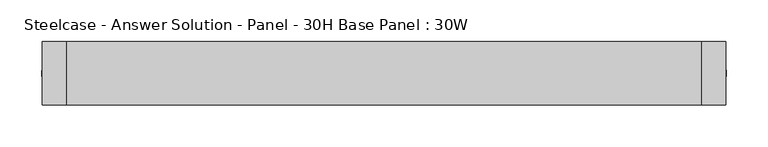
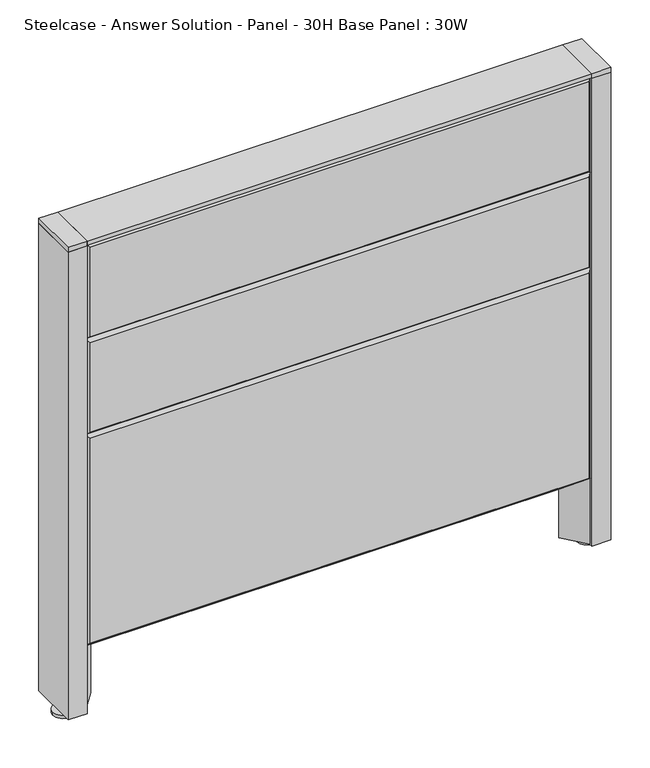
"""IFC4 building model written with IfcOpenShell, lengths in millimetres: furniture geometry, Steelcase - Answer Solution - Panel - 30H Base Panel : 30W."""

from ifc_helpers import new_model, si_unit, point, frame, frame_2d, origin, place, context, project, spatial, polyline, circle_curve, trimmed, segment, composite_curve, outline, extrude, faceted_brep, source, transform, mapped, element, save


def steelcase_answer_solution_panel_30h_base_panel_30w_2457fe21(model_context):
    return source(origin(), model_context, "Body", "SolidModel", [
        extrude(outline(composite_curve([segment(trimmed(circle_curve(frame_2d((395.224, 0.0320214)), 5.08), [point((400.304, 0.0320214))], [point((390.144, 0.0320214))], False, "CARTESIAN"), True, "CONTINUOUS"), segment(trimmed(circle_curve(frame_2d((395.224, 0.0320214)), 5.08), [point((390.144, 0.0320214))], [point((400.304, 0.0320214))], False, "CARTESIAN"), True, "CONTINUOUS")], self_intersect=False)), frame((0.0, 0.0, 5.0799671), z_axis=(0.0, 0.0, 1.0), x_axis=(1.0, 0.0, 0.0)), (0.0, 0.0, 1.0), 10.414),
        extrude(outline(composite_curve([segment(trimmed(circle_curve(frame_2d((395.224, 0.0320214)), 15.24), [point((410.464, 0.0320214))], [point((379.984, 0.0320214))], False, "CARTESIAN"), True, "CONTINUOUS"), segment(trimmed(circle_curve(frame_2d((395.224, 0.0320214)), 15.24), [point((379.984, 0.0320214))], [point((410.464, 0.0320214))], False, "CARTESIAN"), True, "CONTINUOUS")], self_intersect=False)), frame((0.0, 0.0, -3.29e-05), z_axis=(0.0, 0.0, 1.0), x_axis=(1.0, 0.0, 0.0)), (0.0, 0.0, 1.0), 5.08),
        extrude(outline(polyline([(409.575, 38.1320408), (409.575, -38.0679592), (381.0, -38.0679592), (381.0, 38.1320408), (409.575, 38.1320408)])), frame((0.0, 0.0, 761.0348), z_axis=(0.0, 0.0, 1.0), x_axis=(1.0, 0.0, 0.0)), (0.0, 0.0, 1.0), 7.3151671),
        extrude(outline(polyline([(409.575, 38.1320408), (409.575, -38.0679592), (381.0, -38.0679592), (381.0, 38.1320408), (409.575, 38.1320408)])), frame((0.0, 0.0, 15.4939671), z_axis=(0.0, 0.0, 1.0), x_axis=(1.0, 0.0, 0.0)), (0.0, 0.0, 1.0), 745.5408329),
        extrude(outline(composite_curve([segment(trimmed(circle_curve(frame_2d((-395.224, -0.0320214)), 5.08), [point((-400.304, -0.0320214))], [point((-390.144, -0.0320214))], False, "CARTESIAN"), True, "CONTINUOUS"), segment(trimmed(circle_curve(frame_2d((-395.224, -0.0320214)), 5.08), [point((-390.144, -0.0320214))], [point((-400.304, -0.0320214))], False, "CARTESIAN"), True, "CONTINUOUS")], self_intersect=False)), frame((0.0, 0.0, 5.0799671), z_axis=(0.0, 0.0, 1.0), x_axis=(1.0, 0.0, 0.0)), (0.0, 0.0, 1.0), 10.414),
        extrude(outline(composite_curve([segment(trimmed(circle_curve(frame_2d((-395.224, -0.0320214)), 15.24), [point((-410.464, -0.0320214))], [point((-379.984, -0.0320214))], False, "CARTESIAN"), True, "CONTINUOUS"), segment(trimmed(circle_curve(frame_2d((-395.224, -0.0320214)), 15.24), [point((-379.984, -0.0320214))], [point((-410.464, -0.0320214))], False, "CARTESIAN"), True, "CONTINUOUS")], self_intersect=False)), frame((0.0, 0.0, -3.29e-05), z_axis=(0.0, 0.0, 1.0), x_axis=(1.0, 0.0, 0.0)), (0.0, 0.0, 1.0), 5.08),
        extrude(outline(polyline([(-409.575, -38.1320408), (-409.575, 38.0679592), (-381.0, 38.0679592), (-381.0, -38.1320408), (-409.575, -38.1320408)])), frame((0.0, 0.0, 761.0348), z_axis=(0.0, 0.0, 1.0), x_axis=(1.0, 0.0, 0.0)), (0.0, 0.0, 1.0), 7.3151671),
        extrude(outline(polyline([(-409.575, -38.1320408), (-409.575, 38.0679592), (-381.0, 38.0679592), (-381.0, -38.1320408), (-409.575, -38.1320408)])), frame((0.0, 0.0, 15.4939671), z_axis=(0.0, 0.0, 1.0), x_axis=(1.0, 0.0, 0.0)), (0.0, 0.0, 1.0), 745.5408329),
        faceted_brep([(376.174, 38.1635011, 757.174), (376.174, 38.1635011, 614.426), (-376.174, 38.1635011, 614.426), (-376.174, 38.1635011, 757.174), (381.0, 33.3375011, 762.0), (-381.0, 33.3375011, 762.0), (-381.0, 33.3375011, 609.6), (381.0, 33.3375011, 609.6)], [[[0, 1, 2, 3]], [[4, 5, 6, 7]], [[4, 0, 3, 5]], [[5, 3, 2, 6]], [[6, 2, 1, 7]], [[7, 1, 0, 4]]]),
        faceted_brep([(376.174, 38.1635011, 604.774), (376.174, 38.1635011, 462.026), (-376.174, 38.1635011, 462.026), (-376.174, 38.1635011, 604.774), (381.0, 33.3375011, 609.6), (-381.0, 33.3375011, 609.6), (-381.0, 33.3375011, 457.2), (381.0, 33.3375011, 457.2)], [[[0, 1, 2, 3]], [[4, 5, 6, 7]], [[4, 0, 3, 5]], [[5, 3, 2, 6]], [[6, 2, 1, 7]], [[7, 1, 0, 4]]]),
        faceted_brep([(376.174, 38.1635011, 452.374), (376.174, 38.1635011, 125.476), (-376.174, 38.1635011, 125.476), (-376.174, 38.1635011, 452.374), (381.0, 33.3375011, 457.2), (-381.0, 33.3375011, 457.2), (-381.0, 33.3375011, 120.65), (381.0, 33.3375011, 120.65)], [[[0, 1, 2, 3]], [[4, 5, 6, 7]], [[4, 0, 3, 5]], [[5, 3, 2, 6]], [[6, 2, 1, 7]], [[7, 1, 0, 4]]]),
        faceted_brep([(376.174, -38.1635011, 757.174), (-376.174, -38.1635011, 757.174), (-376.174, -38.1635011, 614.426), (376.174, -38.1635011, 614.426), (381.0, -33.3375011, 762.0), (381.0, -33.3375011, 609.6), (-381.0, -33.3375011, 609.6), (-381.0, -33.3375011, 762.0)], [[[0, 1, 2, 3]], [[4, 5, 6, 7]], [[4, 7, 1, 0]], [[7, 6, 2, 1]], [[6, 5, 3, 2]], [[5, 4, 0, 3]]]),
        faceted_brep([(376.174, -38.1635011, 604.774), (-376.174, -38.1635011, 604.774), (-376.174, -38.1635011, 462.026), (376.174, -38.1635011, 462.026), (381.0, -33.3375011, 609.6), (381.0, -33.3375011, 457.2), (-381.0, -33.3375011, 457.2), (-381.0, -33.3375011, 609.6)], [[[0, 1, 2, 3]], [[4, 5, 6, 7]], [[4, 7, 1, 0]], [[7, 6, 2, 1]], [[6, 5, 3, 2]], [[5, 4, 0, 3]]]),
        faceted_brep([(376.174, -38.1635011, 452.374), (-376.174, -38.1635011, 452.374), (-376.174, -38.1635011, 125.476), (376.174, -38.1635011, 125.476), (381.0, -33.3375011, 457.2), (381.0, -33.3375011, 120.65), (-381.0, -33.3375011, 120.65), (-381.0, -33.3375011, 457.2)], [[[0, 1, 2, 3]], [[4, 5, 6, 7]], [[4, 7, 1, 0]], [[7, 6, 2, 1]], [[6, 5, 3, 2]], [[5, 4, 0, 3]]]),
        faceted_brep([(-381.0, -33.3374989, 15.494), (-381.0, 33.3375011, 15.494), (-353.06, 0.0, 15.494), (-381.0, -33.3374989, 120.6512657), (-381.0, 33.3375011, 120.6512657), (-353.06, 0.0, 92.7112657), (381.0, -33.3374989, 120.6512657), (381.0, 33.3375011, 120.6512657), (353.06, 0.0, 92.7112657), (381.0, -33.3374989, 15.494), (353.06, 0.0, 15.494), (381.0, 33.3375011, 15.494)], [[[0, 1, 2]], [[1, 0, 3, 4]], [[2, 1, 4, 5]], [[0, 2, 5, 3]], [[4, 3, 6, 7]], [[5, 4, 7, 8]], [[3, 5, 8, 6]], [[9, 10, 11]], [[7, 6, 9, 11]], [[8, 7, 11, 10]], [[6, 8, 10, 9]]]),
        extrude(outline(polyline([(381.0, 38.1000194), (381.0, -38.1000194), (-381.0, -38.1000194), (-381.0, 38.1000194), (381.0, 38.1000194)])), frame((0.0, 0.0, 762.0), z_axis=(0.0, 0.0, 1.0), x_axis=(1.0, 0.0, 0.0)), (0.0, 0.0, 1.0), 6.35),
    ])


if __name__ == "__main__":
    model = new_model("IFC4")
    model_context = context("Model", 3, world=origin())
    ifc_project = project(units=[si_unit("LENGTHUNIT", "METRE", prefix="MILLI")], contexts=[model_context])
    site = spatial("IfcSite", under=ifc_project)
    building = spatial("IfcBuilding", under=site)
    placement = place(None, origin())
    steelcase_answer_solution_panel_30h_base_panel_30w_shape = steelcase_answer_solution_panel_30h_base_panel_30w_2457fe21(model_context)
    element("IfcFurniture", 1, ObjectType="Steelcase - Answer Solution - Panel - 30H Base Panel : 30W", at=placement, inside=building, context=model_context, shape_type="MappedRepresentation", body=[
        mapped(steelcase_answer_solution_panel_30h_base_panel_30w_shape, transform((0.0, 0.0, 0.0), x_axis=(1.0, 0.0, 0.0), y_axis=(0.0, 1.0, 0.0), z_axis=(0.0, 0.0, 1.0))),
    ])
    save(model, "model.ifc")
